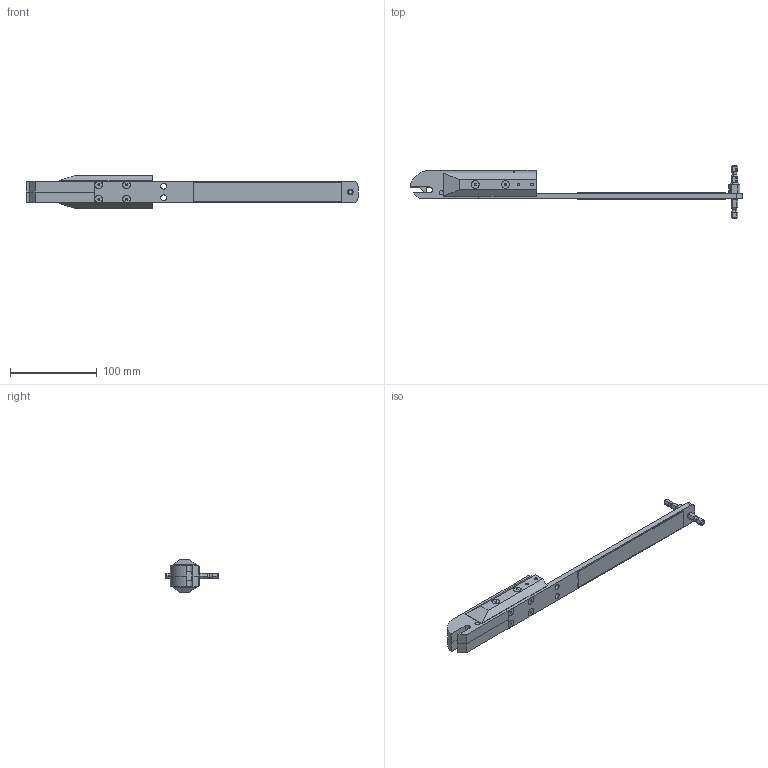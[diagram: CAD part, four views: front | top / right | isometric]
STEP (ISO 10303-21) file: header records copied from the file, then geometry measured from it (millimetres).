
FILE_DESCRIPTION (( 'STEP AP203' ), '1' );
FILE_NAME ('Clearance Gauge.STEP', '2017-04-18T15:27:13', ( '' ), ( '' ), 'SwSTEP 2.0', 'SolidWorks 2017', '' );
FILE_SCHEMA (( 'CONFIG_CONTROL_DESIGN' ));
Length unit declared in the file: inch
Products named in the file (18): Inclinometer Base; A480-032-062-Sodemann_A480-032-062-Sodemann; Arm Assembly; socket countersunk head cap screw_ai_SCHCSCREW 0.25-20x1x1-HX-N; Conn Plug Clr Gge, Male_Real Thread; socket countersunk head cap screw_ai_SCHCSCREW 0.164-32x0.5x0.5-HX-N; Conn Plug Clr Gge, Female; socket countersunk head cap screw_ai_SCHCSCREW 0.138-32x0.375x0.375-HX-N; Clr Ga Left Side; Clearance Gauge; dowel pin (unhardened)_ai_ASME B18.8.2 - 0.1847x1; Catch Lever; 6627K11 Bearing; Clr Ga Right Side; dowel pin (unhardened)_ai_ASME B18.8.2 - 0.1847x0.5; Scale; Arm; Insert
Assembly tree (31 placements, depth 3):
  Clearance Gauge
    Clr Ga Left Side
    Catch Lever
    Clr Ga Right Side
    Scale  x2
    Insert  x2
    A480-032-062-Sodemann_A480-032-062-Sodemann
    socket countersunk head cap screw_ai_SCHCSCREW 0.25-20x1x1-HX-N
    socket countersunk head cap screw_ai_SCHCSCREW 0.164-32x0.5x0.5-HX-N  x8
    socket countersunk head cap screw_ai_SCHCSCREW 0.138-32x0.375x0.375-HX-N  x4
    dowel pin (unhardened)_ai_ASME B18.8.2 - 0.1847x1
    6627K11 Bearing  x2
    dowel pin (unhardened)_ai_ASME B18.8.2 - 0.1847x0.5
    Arm Assembly
      Arm
      Inclinometer Base  x2
    Conn Plug Clr Gge, Male_Real Thread
    Conn Plug Clr Gge, Female
Bounding box: 383.67 x 60.33 x 38.1 mm (x, y, z)
Volume: 164421.2 mm3; surface area: 91620.4 mm2
Topology: 30 solids, 30 shells, 717 faces, 1667 edges, 989 vertices
Faces by surface type: plane 334, cylinder 212, cone 146, bspline 9, torus 8, sphere 8
Entity records: 19518 total; most frequent: CARTESIAN_POINT 7257, DIRECTION 2131, ORIENTED_EDGE 2020, EDGE_CURVE 1010, AXIS2_PLACEMENT_3D 801, VERTEX_POINT 627, LINE 529, VECTOR 529
